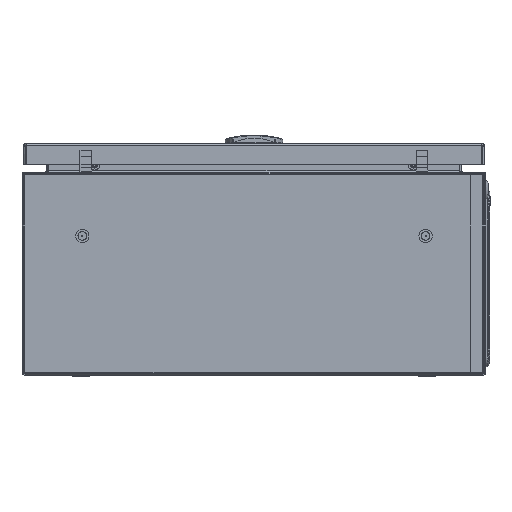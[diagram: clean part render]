
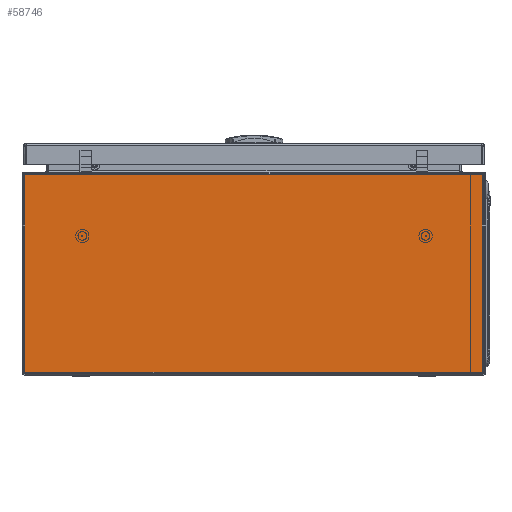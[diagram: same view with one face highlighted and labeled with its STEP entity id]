
A CAD part, left-side view. The second image highlights one B-rep face of the part: STEP entity #58746.
In plain terms, the highlighted planar face has unit normal (-1, 0, 0).
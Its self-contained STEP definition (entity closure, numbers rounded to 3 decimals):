
#1220 = PLANE ( 'NONE',  #58736 ) ;
#1841 = EDGE_CURVE ( 'NONE', #11923, #48727, #81608, .T. ) ;
#3259 = LINE ( 'NONE', #19366, #92005 ) ;
#3327 = DIRECTION ( 'NONE',  ( 0., 0., -1. ) ) ;
#3444 = CARTESIAN_POINT ( 'NONE',  ( -1.2, -85.1, 197. ) ) ;
#3981 = ORIENTED_EDGE ( 'NONE', *, *, #52266, .T. ) ;
#4873 = EDGE_CURVE ( 'NONE', #11923, #88540, #61731, .T. ) ;
#6146 = VERTEX_POINT ( 'NONE', #25355 ) ;
#10092 = DIRECTION ( 'NONE',  ( 0., 0., -1. ) ) ;
#11923 = VERTEX_POINT ( 'NONE', #82979 ) ;
#11943 = ORIENTED_EDGE ( 'NONE', *, *, #30326, .F. ) ;
#12068 = ORIENTED_EDGE ( 'NONE', *, *, #1841, .T. ) ;
#12973 = VECTOR ( 'NONE', #33723, 1000. ) ;
#19366 = CARTESIAN_POINT ( 'NONE',  ( -1.2, 85.1, 198.8 ) ) ;
#20991 = VECTOR ( 'NONE', #3327, 1000. ) ;
#22799 = EDGE_CURVE ( 'NONE', #88540, #40244, #34227, .T. ) ;
#23752 = VECTOR ( 'NONE', #59239, 1000. ) ;
#24579 = ORIENTED_EDGE ( 'NONE', *, *, #4873, .F. ) ;
#25152 = DIRECTION ( 'NONE',  ( 1., 0., 0. ) ) ;
#25355 = CARTESIAN_POINT ( 'NONE',  ( -1.2, -85.1, -197.55 ) ) ;
#25620 = EDGE_CURVE ( 'NONE', #90509, #48727, #3259, .T. ) ;
#26195 = CARTESIAN_POINT ( 'NONE',  ( -1.2, -85.1, 198.8 ) ) ;
#27940 = DIRECTION ( 'NONE',  ( 0., -1., 0. ) ) ;
#30326 = EDGE_CURVE ( 'NONE', #6146, #63192, #90712, .T. ) ;
#32672 = CARTESIAN_POINT ( 'NONE',  ( -1.2, 85.1, 197. ) ) ;
#33723 = DIRECTION ( 'NONE',  ( 0., 0., -1. ) ) ;
#34227 = LINE ( 'NONE', #90428, #12973 ) ;
#36380 = CARTESIAN_POINT ( 'NONE',  ( -1.2, -85.1, 196.95 ) ) ;
#37469 = CARTESIAN_POINT ( 'NONE',  ( -1.2, 85.1, -197.6 ) ) ;
#38397 = ORIENTED_EDGE ( 'NONE', *, *, #58185, .T. ) ;
#40244 = VERTEX_POINT ( 'NONE', #36380 ) ;
#43032 = VECTOR ( 'NONE', #82137, 1000. ) ;
#45163 = CARTESIAN_POINT ( 'NONE',  ( -1.2, -85.1, -197.55 ) ) ;
#45621 = CARTESIAN_POINT ( 'NONE',  ( -1.2, 85.1, 197. ) ) ;
#48727 = VERTEX_POINT ( 'NONE', #81690 ) ;
#52131 = DIRECTION ( 'NONE',  ( 0., 0., 1. ) ) ;
#52266 = EDGE_CURVE ( 'NONE', #6146, #40244, #73293, .T. ) ;
#54445 = ORIENTED_EDGE ( 'NONE', *, *, #25620, .F. ) ;
#54767 = CARTESIAN_POINT ( 'NONE',  ( -1.2, -85.1, -197.6 ) ) ;
#58185 = EDGE_CURVE ( 'NONE', #90509, #63192, #98272, .T. ) ;
#58736 = AXIS2_PLACEMENT_3D ( 'NONE', #81348, #25152, #10092 ) ;
#58746 = ADVANCED_FACE ( 'NONE', ( #73003 ), #1220, .F. ) ;
#59239 = DIRECTION ( 'NONE',  ( 0., -1., 0. ) ) ;
#60784 = CARTESIAN_POINT ( 'NONE',  ( -1.2, 85.1, -197.6 ) ) ;
#61731 = LINE ( 'NONE', #45621, #75007 ) ;
#63192 = VERTEX_POINT ( 'NONE', #54767 ) ;
#71768 = ORIENTED_EDGE ( 'NONE', *, *, #22799, .F. ) ;
#73003 = FACE_OUTER_BOUND ( 'NONE', #98116, .T. ) ;
#73293 = LINE ( 'NONE', #45163, #90933 ) ;
#75007 = VECTOR ( 'NONE', #27940, 1000. ) ;
#76920 = DIRECTION ( 'NONE',  ( 0., 0., 1. ) ) ;
#81348 = CARTESIAN_POINT ( 'NONE',  ( -1.2, -85.1, -198.8 ) ) ;
#81608 = LINE ( 'NONE', #32672, #43032 ) ;
#81690 = CARTESIAN_POINT ( 'NONE',  ( -1.2, 85.1, -197.3 ) ) ;
#82137 = DIRECTION ( 'NONE',  ( 0., 0., -1. ) ) ;
#82979 = CARTESIAN_POINT ( 'NONE',  ( -1.2, 85.1, 197. ) ) ;
#88540 = VERTEX_POINT ( 'NONE', #3444 ) ;
#90428 = CARTESIAN_POINT ( 'NONE',  ( -1.2, -85.1, 198.8 ) ) ;
#90509 = VERTEX_POINT ( 'NONE', #37469 ) ;
#90712 = LINE ( 'NONE', #26195, #20991 ) ;
#90933 = VECTOR ( 'NONE', #76920, 1000. ) ;
#92005 = VECTOR ( 'NONE', #52131, 1000. ) ;
#98116 = EDGE_LOOP ( 'NONE', ( #24579, #12068, #54445, #38397, #11943, #3981, #71768 ) ) ;
#98272 = LINE ( 'NONE', #60784, #23752 ) ;
